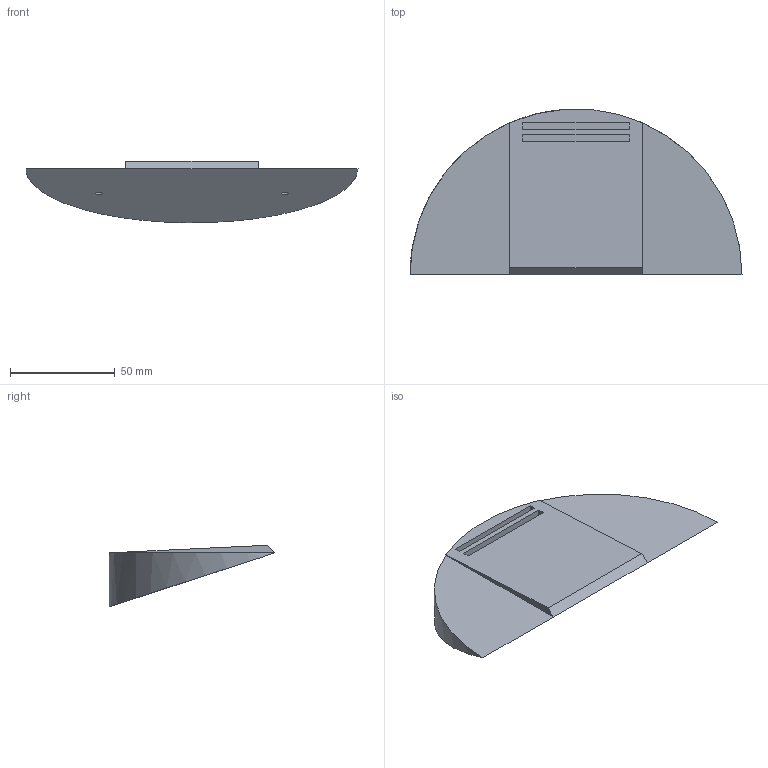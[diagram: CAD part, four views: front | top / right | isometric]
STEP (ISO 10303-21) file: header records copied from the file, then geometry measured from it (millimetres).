
FILE_DESCRIPTION(/* description */ ('Alibre Inc.'),/* implementation_level */ '2;1');
FILE_NAME(/* name */ 'export0',/* time_stamp */ '2013-03-07T10:42:05-05:00',/* author */ (''),/* organization */ (''),/* preprocessor_version */ 'ST-DEVELOPER v14',/* originating_system */ 'Alibre',/* authorisation */ '');
FILE_SCHEMA (('CONFIG_CONTROL_DESIGN'));
Length unit declared in the file: centimetre
Products named in the file (1): ID_1
Bounding box: 158.75 x 79.34 x 29.43 mm (x, y, z)
Volume: 116071.6 mm3; surface area: 25803.5 mm2
Topology: 1 solids, 1 shells, 22 faces, 46 edges, 30 vertices
Faces by surface type: plane 19, cylinder 3
Full cylindrical faces by diameter (mm): 3.175 x2
Entity records: 621 total; most frequent: CARTESIAN_POINT 92, ORIENTED_EDGE 88, DIRECTION 72, EDGE_CURVE 44, VECTOR 34, LINE 34, VERTEX_POINT 30, EDGE_LOOP 28
